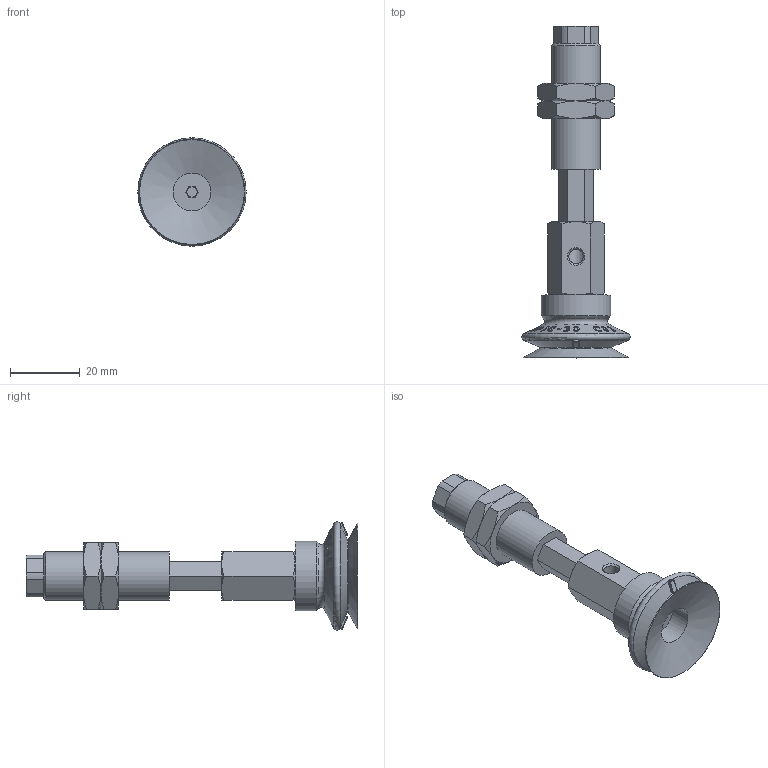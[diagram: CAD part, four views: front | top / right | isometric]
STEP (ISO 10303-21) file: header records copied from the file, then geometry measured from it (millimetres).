
FILE_DESCRIPTION(('STEP AP214'),'1');
FILE_NAME('.stp','2026-01-21T07:08:49',(' '),(' '),'Spatial InterOp 3D',' ',' ');
FILE_SCHEMA(('AUTOMOTIVE_DESIGN { 1 0 10303 214 1 1 1 1 }'));
Length unit declared in the file: millimetre
Products named in the file (7): BNABPJYH-30-15-※; BPJG-30-※; Adapter-30-NAPJ; CONNECTOR_H-30-15; NAPJH-30-15-NUT; NAPJYH-30-15-FBODY; NAPJYH-30-15-MBODY
Assembly tree (7 placements, depth 2):
  BNABPJYH-30-15-※
    BPJG-30-※
    Adapter-30-NAPJ
    CONNECTOR_H-30-15
    NAPJH-30-15-NUT  x2
    NAPJYH-30-15-FBODY
    NAPJYH-30-15-MBODY
Bounding box: 30.99 x 95 x 30.99 mm (x, y, z)
Volume: 17748.3 mm3; surface area: 12789.1 mm2
Topology: 7 solids, 7 shells, 792 faces, 2197 edges, 1442 vertices
Faces by surface type: plane 687, cone 70, cylinder 28, torus 7
Full cylindrical faces by diameter (mm): 3 x2, 4.134 x2, 4.917 x1, 5 x1, 5.8 x1, 6 x1, 10.8 x1, 11 x1, 13.188 x2, 14 x1, 20 x1
Entity records: 31710 total; most frequent: CARTESIAN_POINT 7850, ORIENTED_EDGE 4224, DIRECTION 2685, EDGE_CURVE 2112, VERTEX_POINT 1409, B_SPLINE_CURVE_WITH_KNOTS 1083, LINE 927, VECTOR 927
